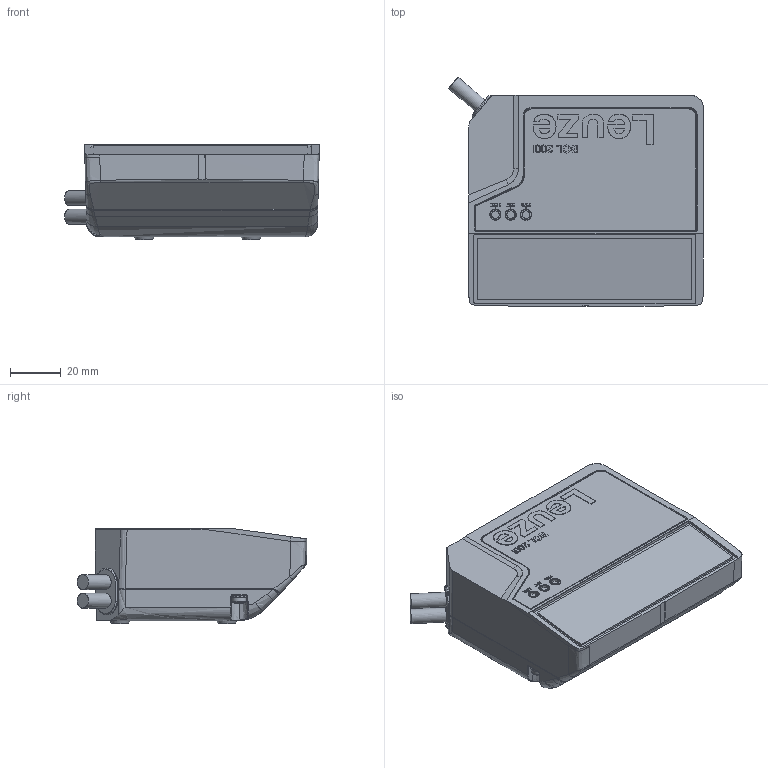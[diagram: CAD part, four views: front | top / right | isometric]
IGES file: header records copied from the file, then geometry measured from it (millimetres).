
Global section: file name: H:\lem\3DCAD_BCL2x8i.igs; native system: NX V11.0; preprocessor: SIEMENS PLM Software NX 11.0; date: 20201007.124809; units: millimetre
Bounding box: 100.06 x 90.14 x 37.62 mm (x, y, z)
Surface area: 28297.9 mm2 (no closed solid volume)
Topology: 0 solids, 0 shells, 950 faces, 5352 edges, 5292 vertices
Faces by surface type: bspline 950
